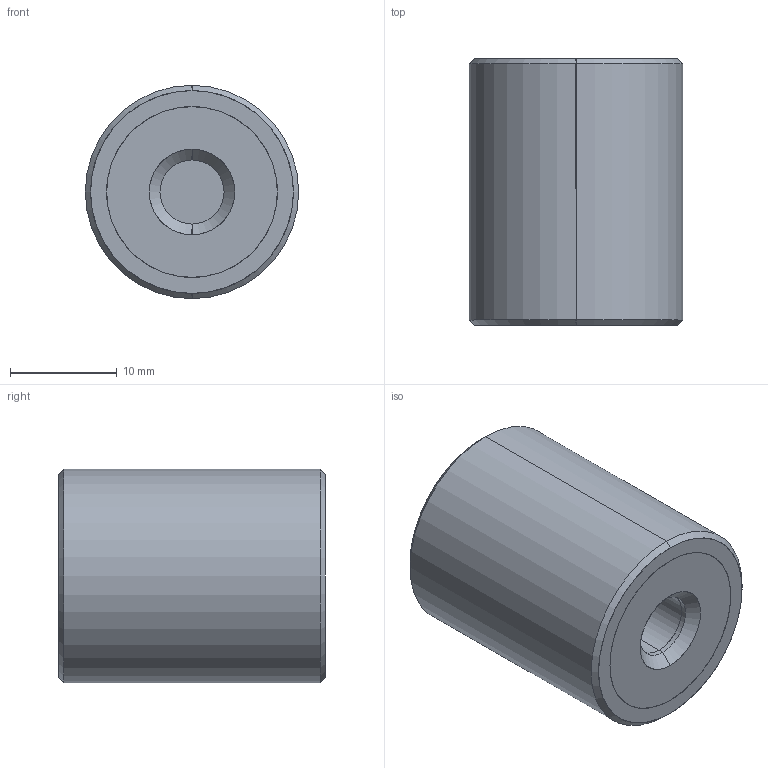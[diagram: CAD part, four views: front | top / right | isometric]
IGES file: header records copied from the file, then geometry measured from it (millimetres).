
Start section: SolidWorks IGES file using analytic representation for surfaces
Global section: file name: E:\WIXROYD 20180701\61080_v2\61080_v2_20180409_IGES\61080.W0202.igs; native system: SolidWorks 2017; preprocessor: SolidWorks 2017; author: liam_; date: 180716.214242; units: millimetre
Bounding box: 20 x 25 x 20 mm (x, y, z)
Surface area: 3361.1 mm2 (no closed solid volume)
Topology: 0 solids, 0 shells, 36 faces, 680 edges, 680 vertices
Faces by surface type: revolution 26, bspline 10
